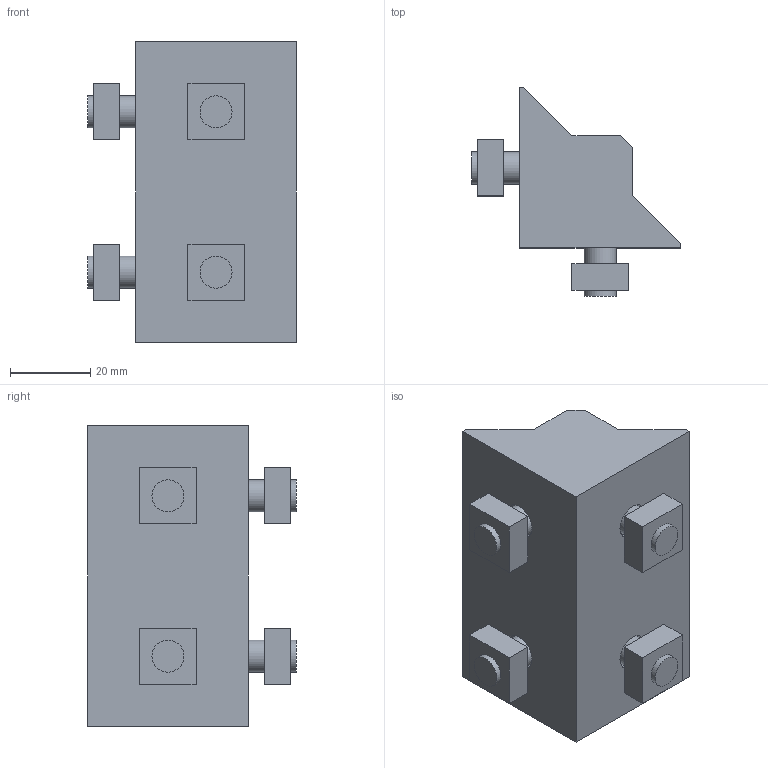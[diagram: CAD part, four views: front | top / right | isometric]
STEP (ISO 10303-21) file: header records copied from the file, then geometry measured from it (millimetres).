
FILE_DESCRIPTION((''),'2;1');
FILE_NAME('C:\Documents and Settings\古川典政\My Documents\Inventor\HP用\MasterData\BRACKET\M8\ABLB-4075-8.stp','2008-07-31T10:52:42',(''),(''),'Autodesk Inventor 2008','Autodesk Inventor 2008','');
FILE_SCHEMA(('CONFIG_CONTROL_DESIGN'));
Length unit declared in the file: millimetre
Products named in the file (10): ABLB-4075-8; ABLB-4075-81; ABLB-4075-82; ABLB-4075-83; ABLB-4075-84; ABLB-4075-85; ABLB-4075-86; ABLB-4075-87; ABLB-4075-88; ABLB-4075-89
Assembly tree (9 placements, depth 2):
  ABLB-4075-8
    ABLB-4075-81
    ABLB-4075-82
    ABLB-4075-83
    ABLB-4075-84
    ABLB-4075-85
    ABLB-4075-86
    ABLB-4075-87
    ABLB-4075-88
    ABLB-4075-89
Bounding box: 52 x 52 x 75 mm (x, y, z)
Volume: 69498.1 mm3; surface area: 22357 mm2
Topology: 9 solids, 9 shells, 85 faces, 181 edges, 118 vertices
Faces by surface type: plane 57, bspline 20, cylinder 8
Full cylindrical faces by diameter (mm): 8 x4, 13 x4
Entity records: 2624 total; most frequent: CARTESIAN_POINT 651, DIRECTION 371, ORIENTED_EDGE 306, EDGE_CURVE 153, AXIS2_PLACEMENT_3D 134, EDGE_LOOP 125, VERTEX_POINT 110, VECTOR 103
